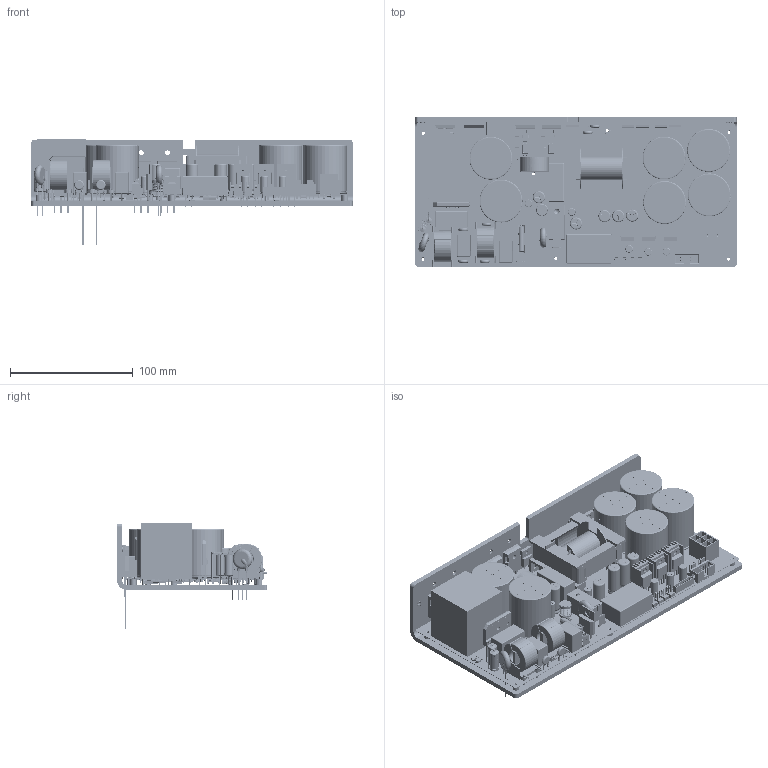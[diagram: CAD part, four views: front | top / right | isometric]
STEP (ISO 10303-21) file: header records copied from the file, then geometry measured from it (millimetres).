
FILE_DESCRIPTION(('Open CASCADE Model'),'2;1');
FILE_NAME('Open CASCADE Shape Model','2022-05-22T23:00:26',('Author'),( 'Open CASCADE'),'Open CASCADE STEP processor 6.8','Open CASCADE 6.8' ,'Unknown');
FILE_SCHEMA(('AUTOMOTIVE_DESIGN { 1 0 10303 214 1 1 1 1 }'));
Length unit declared in the file: millimetre
Products named in the file (430): PCB; Board; Open CASCADE STEP translator 6.8 2.1.1; C47; User_Library-CAPAER_D063_L150_P025_W005X030; CAPAER_D063_L150_P025_W005X030; C9; User_Library-FILM_BLUE_P2250L2650W1300H2200PD80; CN5; 022112022; Open CASCADE STEP translator 6.8 2.4.1.1; Open CASCADE STEP translator 6.8 2.4.1.2; 6039161248; Extruded; R101; User_Library-Resistor0805; R100; R99; R98; R97; Q11; User_Library-SOT95P240X110-3M[SOT23-3_TO-236AB]; D41; User_Library-smd_diode_1206; C83; User_Library-C0805-2; VRS-1; 45935; C76; R93; SW3dPS-1206_SMD_Resistor; R3; C22; D5; SW3DPS-DIOD_SMD_10BF10-DEFAULT; D7; L4; User_Library-Inductor_10x12_(200_mils); User_Library-Inductor_10x12_(200_mils)_Inductor_10x12_(200_mils)_
Bobina_Valor_predeterminado; User_Library-Inductor_10x12_(200_mils)_Inductor_10x12_(200_mils)_
Ferrite_Valor_predeterminado ...
Assembly tree (736 placements, depth 4):
  PCB
    Board
      Open CASCADE STEP translator 6.8 2.1.1
    C47
      User_Library-CAPAER_D063_L150_P025_W005X030
        CAPAER_D063_L150_P025_W005X030
    C9
      User_Library-FILM_BLUE_P2250L2650W1300H2200PD80
    CN5
      022112022
        Open CASCADE STEP translator 6.8 2.4.1.1
        Open CASCADE STEP translator 6.8 2.4.1.2
      6039161248
        Extruded
    R101
      User_Library-Resistor0805
    R100
      User_Library-Resistor0805
    R99
      User_Library-Resistor0805
    R98
      User_Library-Resistor0805
    R97
      User_Library-Resistor0805
    Q11
      User_Library-SOT95P240X110-3M[SOT23-3_TO-236AB]
    D41
      User_Library-smd_diode_1206
    C83
      User_Library-C0805-2
    VRS-1
      45935
    C76
      User_Library-C0805-2
    R93
      SW3dPS-1206_SMD_Resistor
    R3
      User_Library-Resistor0805
    C22
      User_Library-C0805-2
    D5
      SW3DPS-DIOD_SMD_10BF10-DEFAULT
    D7
      SW3DPS-DIOD_SMD_10BF10-DEFAULT
    L4
      User_Library-Inductor_10x12_(200_mils)
        User_Library-Inductor_10x12_(200_mils)_Inductor_10x12_(200_mils)_
Bobina_Valor_predeterminado
        User_Library-Inductor_10x12_(200_mils)_Inductor_10x12_(200_mils)_
Ferrite_Valor_predeterminado
    LED30
      6039165808
      6039165728
        Extruded
      6078626240
        Extruded
      6078625920
        Extruded
      6078625600
        Extruded
      6078625200  x2
        Extruded
Bounding box: 262 x 122.5 x 86.46 mm (x, y, z)
Volume: 628436.9 mm3; surface area: 329505.6 mm2
Topology: 679 solids, 687 shells, 28702 faces, 70947 edges, 42823 vertices
Faces by surface type: plane 13232, cylinder 6763, bspline 6354, sphere 1469, torus 649, cone 235
Full cylindrical faces by diameter (mm): 0.385 x1, 0.762 x12, 0.8 x24, 0.812 x1, 0.813 x16, 0.9 x5, 1 x151, 1.016 x28, 1.1 x6, 1.118 x12, 1.194 x2, 1.2 x6, 1.27 x9, 1.321 x8, 1.397 x7, 1.499 x2, 1.5 x36, 1.6 x12, 1.651 x3, 1.8 x3, 2 x2, 2.007 x12, 2.05 x6, 2.8 x2, 3.1 x6, 4.5 x2
Entity records: 326727 total; most frequent: CARTESIAN_POINT 117063, ORIENTED_EDGE 36816, DIRECTION 32544, EDGE_CURVE 18417, LINE 11954, VECTOR 11954, VERTEX_POINT 11759, AXIS2_PLACEMENT_3D 10295
